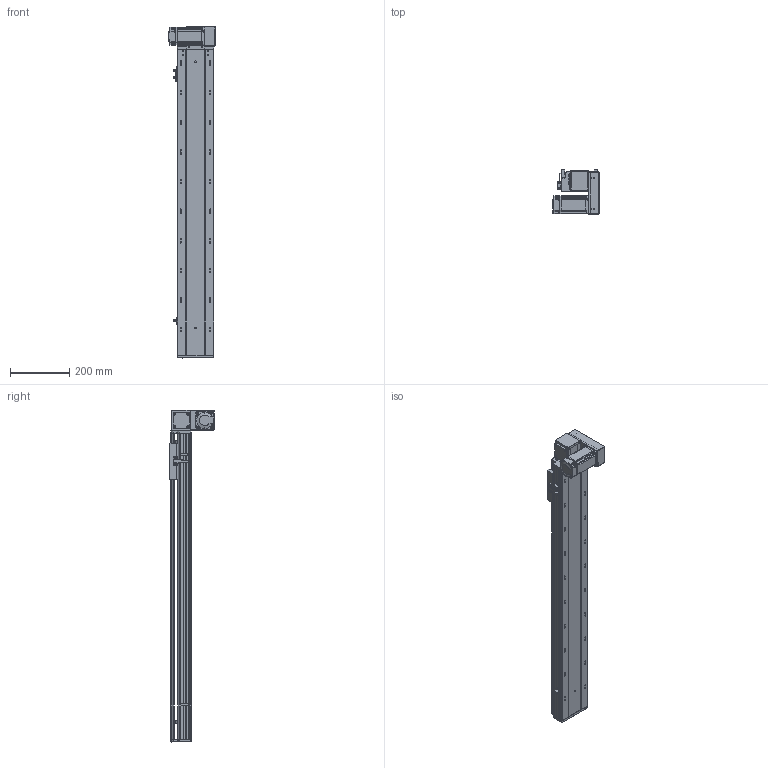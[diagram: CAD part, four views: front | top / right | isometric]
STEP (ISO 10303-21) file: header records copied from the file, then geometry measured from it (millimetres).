
FILE_DESCRIPTION (( 'STEP AP203' ), '1' );
FILE_NAME ('RY120-T-300-DR.SLDASM_800.step', '2021-03-01T03:35:23', ( '盈信电脑' ), ( '东莞市道滘镇水果街19号' ), 'SwSTEP 2.0', 'SolidWorks 2012', '' );
FILE_SCHEMA (( 'CONFIG_CONTROL_DESIGN' ));
Length unit declared in the file: millimetre
Products named in the file (17): RY120-T-300-DR.SLDASM_800; RY120-T萇儂欶; RY120-T主同步轮轴承压盖; RY120-T萇儂假蚾啣; RY120-T蹟翐M4; RY120-T翋肮祭盓傅釱; 15; 滅袉蝶18-10; RY120-T翋肮祭謫裔啣; RY120-T肮祭湍揤踡輸2; RY120-T肮祭湍揤踡輸1; RY120外置感应片(140共用）; RY120-T-300-DR倰第奻裔啣_800; RY120綴裔啣; 覜茼ん672; RY120肮祭湍臏賑輸; RY120-T-300-DR倰第菁釱_800
Assembly tree (22 placements, depth 2):
  RY120-T-300-DR.SLDASM_800
    RY120-T-300-DR倰第菁釱_800
    RY120-T-300-DR倰第奻裔啣_800
    RY120肮祭湍臏賑輸
    RY120綴裔啣
    覜茼ん672  x3
    RY120外置感应片(140共用）
    RY120-T肮祭湍揤踡輸1
    RY120-T肮祭湍揤踡輸2
    RY120-T翋肮祭盓傅釱
    滅袉蝶18-10  x2
    RY120-T翋肮祭謫裔啣
    15
    RY120-T萇儂假蚾啣
    RY120-T蹟翐M4  x4
    RY120-T萇儂欶
    RY120-T主同步轮轴承压盖
Bounding box: 155.5 x 150 x 1121 mm (x, y, z)
Volume: 3173127.3 mm3; surface area: 1178623 mm2
Topology: 23 solids, 23 shells, 2914 faces, 7996 edges, 5144 vertices
Faces by surface type: plane 1442, cylinder 1140, cone 243, bspline 89
Entity records: 94247 total; most frequent: CARTESIAN_POINT 24794, ORIENTED_EDGE 14440, DIRECTION 13478, EDGE_CURVE 7220, VERTEX_POINT 4731, AXIS2_PLACEMENT_3D 4527, VECTOR 4424, LINE 4424
